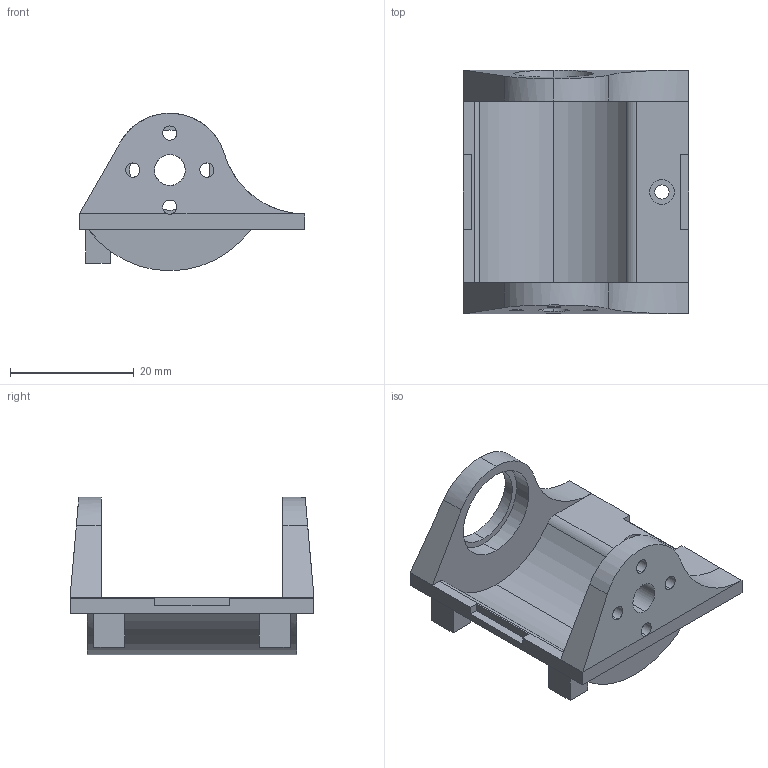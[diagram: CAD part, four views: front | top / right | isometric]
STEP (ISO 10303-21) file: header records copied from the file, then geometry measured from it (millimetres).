
FILE_DESCRIPTION (( 'STEP AP203' ), '1' );
FILE_NAME ('ankle_right褐灉衵.STEP', '2026-09-09T23:04:37', ( '' ), ( '' ), 'SwSTEP 2.0', 'SolidWorks 2021', '' );
FILE_SCHEMA (( 'CONFIG_CONTROL_DESIGN' ));
Length unit declared in the file: millimetre
Products named in the file (1): ankle_right褐灉衵
Bounding box: 36.52 x 39.5 x 25.5 mm (x, y, z)
Volume: 6188.6 mm3; surface area: 5648.5 mm2
Topology: 1 solids, 1 shells, 76 faces, 204 edges, 134 vertices
Faces by surface type: plane 45, cylinder 31
Entity records: 2476 total; most frequent: CARTESIAN_POINT 466, ORIENTED_EDGE 408, DIRECTION 392, EDGE_CURVE 204, LINE 136, VECTOR 136, VERTEX_POINT 134, AXIS2_PLACEMENT_3D 128
